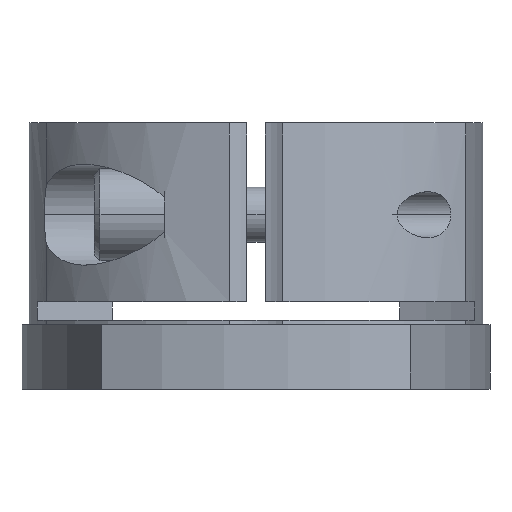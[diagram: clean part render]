
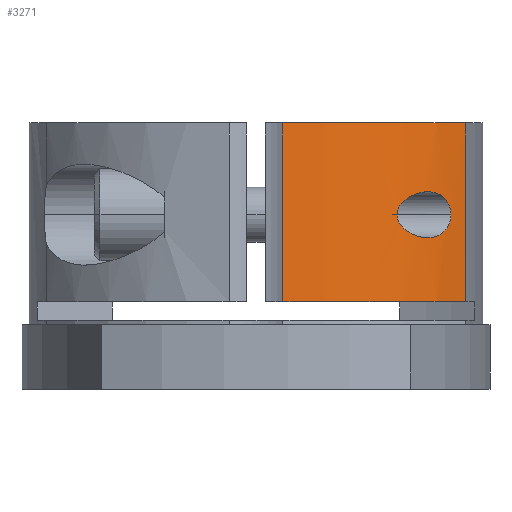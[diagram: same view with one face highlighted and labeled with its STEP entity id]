
A CAD part, front view. The second image highlights one B-rep face of the part: STEP entity #3271.
In plain terms, the highlighted cylindrical face has radius 28.5 mm (diameter 57 mm), a partial arc.
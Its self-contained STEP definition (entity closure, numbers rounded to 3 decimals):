
#725=CARTESIAN_POINT('',(21.243,-19.,15.5));
#726=VERTEX_POINT('',#725);
#735=CARTESIAN_POINT('',(15.37,-24.,15.5));
#736=VERTEX_POINT('',#735);
#737=CARTESIAN_POINT('',(15.37,-24.,15.5));
#738=CARTESIAN_POINT('',(15.37,-24.,15.689));
#739=CARTESIAN_POINT('',(15.404,-23.979,15.872));
#740=CARTESIAN_POINT('',(15.523,-23.902,16.216));
#741=CARTESIAN_POINT('',(15.608,-23.846,16.379));
#742=CARTESIAN_POINT('',(15.916,-23.643,16.829));
#743=CARTESIAN_POINT('',(16.19,-23.457,17.078));
#744=CARTESIAN_POINT('',(16.792,-23.032,17.504));
#745=CARTESIAN_POINT('',(17.177,-22.748,17.691));
#746=CARTESIAN_POINT('',(17.762,-22.289,17.878));
#747=CARTESIAN_POINT('',(17.958,-22.132,17.924));
#748=CARTESIAN_POINT('',(18.343,-21.814,17.985));
#749=CARTESIAN_POINT('',(18.53,-21.655,18.0));
#750=CARTESIAN_POINT('',(18.871,-21.359,18.0));
#751=CARTESIAN_POINT('',(19.038,-21.209,17.988));
#752=CARTESIAN_POINT('',(19.373,-20.904,17.933));
#753=CARTESIAN_POINT('',(19.54,-20.748,17.89));
#754=CARTESIAN_POINT('',(19.863,-20.439,17.77));
#755=CARTESIAN_POINT('',(20.018,-20.287,17.693));
#756=CARTESIAN_POINT('',(20.309,-19.996,17.505));
#757=CARTESIAN_POINT('',(20.444,-19.858,17.394));
#758=CARTESIAN_POINT('',(20.66,-19.632,17.168));
#759=CARTESIAN_POINT('',(20.753,-19.534,17.053));
#760=CARTESIAN_POINT('',(20.92,-19.355,16.794));
#761=CARTESIAN_POINT('',(20.994,-19.274,16.65));
#762=CARTESIAN_POINT('',(21.116,-19.141,16.344));
#763=CARTESIAN_POINT('',(21.164,-19.088,16.18));
#764=CARTESIAN_POINT('',(21.227,-19.018,15.843));
#765=CARTESIAN_POINT('',(21.243,-19.,15.671));
#766=CARTESIAN_POINT('',(21.243,-19.,15.5));
#767=B_SPLINE_CURVE_WITH_KNOTS('',3,(#737,#738,#739,#740,#741,#742,#743,#744,#745,#746,#747,#748,#749,#750,#751,#752,#753,#754,#755,#756,#757,#758,#759,#760,#761,#762,#763,#764,#765,#766),.UNSPECIFIED.,.F.,.U.,(4,2,2,2,2,2,2,2,2,2,2,2,2,2,4),(9.711,10.279,10.847,11.984,13.4,14.108,14.816,15.461,16.107,16.752,17.397,17.909,18.42,18.932,19.443),.UNSPECIFIED.);
#768=EDGE_CURVE('',#736,#726,#767,.T.);
#2362=CARTESIAN_POINT('',(21.243,-19.,15.5));
#2363=CARTESIAN_POINT('',(21.243,-19.,15.347));
#2364=CARTESIAN_POINT('',(21.23,-19.014,15.19));
#2365=CARTESIAN_POINT('',(21.178,-19.072,14.883));
#2366=CARTESIAN_POINT('',(21.139,-19.116,14.732));
#2367=CARTESIAN_POINT('',(21.037,-19.227,14.447));
#2368=CARTESIAN_POINT('',(20.975,-19.295,14.313));
#2369=CARTESIAN_POINT('',(20.835,-19.447,14.066));
#2370=CARTESIAN_POINT('',(20.756,-19.53,13.955));
#2371=CARTESIAN_POINT('',(20.552,-19.745,13.708));
#2372=CARTESIAN_POINT('',(20.413,-19.89,13.578));
#2373=CARTESIAN_POINT('',(20.109,-20.197,13.358));
#2374=CARTESIAN_POINT('',(19.945,-20.359,13.268));
#2375=CARTESIAN_POINT('',(19.603,-20.689,13.128));
#2376=CARTESIAN_POINT('',(19.424,-20.857,13.078));
#2377=CARTESIAN_POINT('',(19.064,-21.186,13.014));
#2378=CARTESIAN_POINT('',(18.883,-21.348,13.0));
#2379=CARTESIAN_POINT('',(18.509,-21.673,13.0));
#2380=CARTESIAN_POINT('',(18.3,-21.851,13.018));
#2381=CARTESIAN_POINT('',(17.871,-22.202,13.094));
#2382=CARTESIAN_POINT('',(17.653,-22.377,13.151));
#2383=CARTESIAN_POINT('',(17.004,-22.878,13.382));
#2384=CARTESIAN_POINT('',(16.58,-23.185,13.612));
#2385=CARTESIAN_POINT('',(16.008,-23.581,14.095));
#2386=CARTESIAN_POINT('',(15.79,-23.727,14.328));
#2387=CARTESIAN_POINT('',(15.55,-23.884,14.734));
#2388=CARTESIAN_POINT('',(15.484,-23.927,14.879));
#2389=CARTESIAN_POINT('',(15.395,-23.985,15.182));
#2390=CARTESIAN_POINT('',(15.37,-24.,15.34));
#2391=CARTESIAN_POINT('',(15.37,-24.,15.5));
#2392=B_SPLINE_CURVE_WITH_KNOTS('',3,(#2362,#2363,#2364,#2365,#2366,#2367,#2368,#2369,#2370,#2371,#2372,#2373,#2374,#2375,#2376,#2377,#2378,#2379,#2380,#2381,#2382,#2383,#2384,#2385,#2386,#2387,#2388,#2389,#2390,#2391),.UNSPECIFIED.,.F.,.U.,(4,2,2,2,2,2,2,2,2,2,2,2,2,2,4),(0.0,0.46,0.92,1.379,1.839,2.536,3.232,3.929,4.625,5.417,6.208,7.791,8.751,9.231,9.711),.UNSPECIFIED.);
#2393=EDGE_CURVE('',#726,#736,#2392,.T.);
#2461=CARTESIAN_POINT('',(2.935,-28.348,6.0));
#2462=VERTEX_POINT('',#2461);
#2470=CARTESIAN_POINT('',(2.935,-28.348,25.5));
#2471=VERTEX_POINT('',#2470);
#2472=CARTESIAN_POINT('',(2.935,-28.348,25.5));
#2473=DIRECTION('',(0.0,0.0,-1.0));
#2474=VECTOR('',#2473,19.5);
#2475=LINE('',#2472,#2474);
#2476=EDGE_CURVE('',#2471,#2462,#2475,.T.);
#2769=CARTESIAN_POINT('',(22.845,-17.039,25.5));
#2770=VERTEX_POINT('',#2769);
#2771=CARTESIAN_POINT('',(0.,0.,25.5));
#2772=DIRECTION('',(0.0,0.0,-1.0));
#2773=DIRECTION('',(1.0,0.0,0.0));
#2774=AXIS2_PLACEMENT_3D('',#2771,#2772,#2773);
#2775=CIRCLE('',#2774,28.5);
#2776=EDGE_CURVE('',#2770,#2471,#2775,.T.);
#3243=CARTESIAN_POINT('',(0.,0.,-3.5));
#3244=DIRECTION('',(0.0,0.0,1.0));
#3245=DIRECTION('',(1.0,0.0,0.0));
#3246=AXIS2_PLACEMENT_3D('',#3243,#3244,#3245);
#3247=CYLINDRICAL_SURFACE('',#3246,28.5);
#3248=ORIENTED_EDGE('',*,*,#2476,.T.);
#3249=CARTESIAN_POINT('',(22.845,-17.039,6.0));
#3250=VERTEX_POINT('',#3249);
#3251=CARTESIAN_POINT('',(0.,0.,6.0));
#3252=DIRECTION('',(0.0,0.0,1.0));
#3253=DIRECTION('',(1.0,0.0,0.0));
#3254=AXIS2_PLACEMENT_3D('',#3251,#3252,#3253);
#3255=CIRCLE('',#3254,28.5);
#3256=EDGE_CURVE('',#2462,#3250,#3255,.T.);
#3257=ORIENTED_EDGE('',*,*,#3256,.T.);
#3258=CARTESIAN_POINT('',(22.845,-17.039,6.0));
#3259=DIRECTION('',(0.0,0.0,1.0));
#3260=VECTOR('',#3259,19.5);
#3261=LINE('',#3258,#3260);
#3262=EDGE_CURVE('',#3250,#2770,#3261,.T.);
#3263=ORIENTED_EDGE('',*,*,#3262,.T.);
#3264=ORIENTED_EDGE('',*,*,#2776,.T.);
#3265=EDGE_LOOP('',(#3248,#3257,#3263,#3264));
#3266=FACE_OUTER_BOUND('',#3265,.T.);
#3267=ORIENTED_EDGE('',*,*,#2393,.T.);
#3268=ORIENTED_EDGE('',*,*,#768,.T.);
#3269=EDGE_LOOP('',(#3267,#3268));
#3270=FACE_BOUND('',#3269,.T.);
#3271=ADVANCED_FACE('',(#3266,#3270),#3247,.T.);
